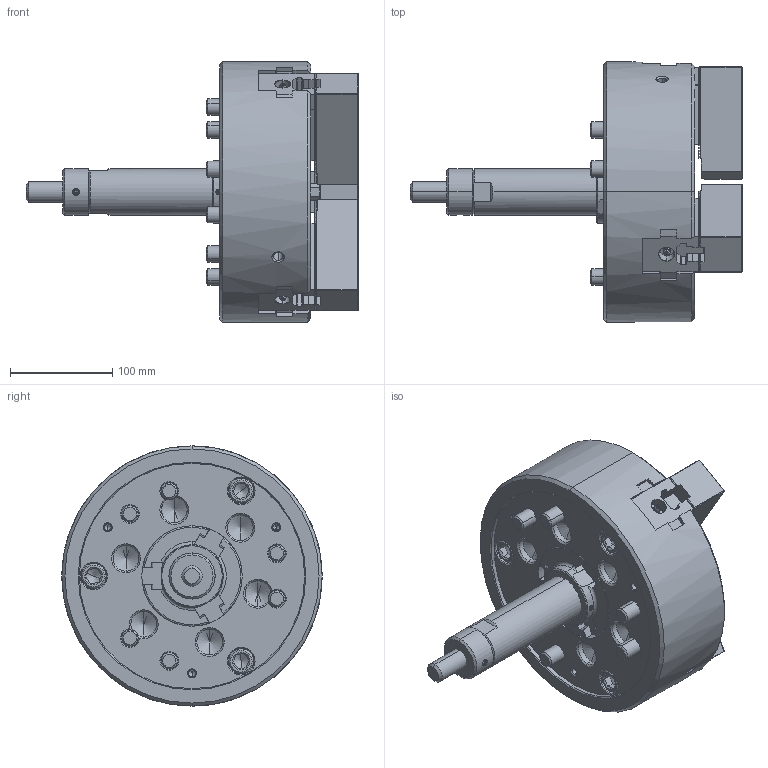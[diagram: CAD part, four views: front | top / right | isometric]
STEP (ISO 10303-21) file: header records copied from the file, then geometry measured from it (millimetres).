
FILE_DESCRIPTION (( 'STEP AP214' ), '1' );
FILE_NAME ('DT1_N-10_OUTSIDE_VIEW_OC.STEP', '2026-03-16T00:27:14', ( '' ), ( '' ), 'SwSTEP 2.0', 'SolidWorks 2022', '' );
FILE_SCHEMA (( 'AUTOMOTIVE_DESIGN' ));
Length unit declared in the file: millimetre
Products named in the file (11): DT1_N-10_DN^DT1_N-10; Copy of 61P310584^DT1_N-10; DT1_N-10_DRAWSCREW^DT1_N-10; DT1_N-10_OUTSIDE_VIEW_OC; DT1_N-10_BASE^DT1_N-10; DT1_N-10_M12x35^DT1_N-10; DT1_N-10_SOFTJAW^DT1_N-10; DT1_N-10_M16x85^DT1_N-10; DT1_N-10_TNUT^DT1_N-10; DT1_N-10_COVER^DT1_N-10; DT1_N-10_M5x12^DT1_N-10
Assembly tree (26 placements, depth 2):
  DT1_N-10_OUTSIDE_VIEW_OC
    DT1_N-10_SOFTJAW^DT1_N-10  x3
    DT1_N-10_TNUT^DT1_N-10  x3
    DT1_N-10_COVER^DT1_N-10
    DT1_N-10_DRAWSCREW^DT1_N-10
    Copy of 61P310584^DT1_N-10
    DT1_N-10_DN^DT1_N-10
    DT1_N-10_BASE^DT1_N-10
    DT1_N-10_M5x12^DT1_N-10  x3
    DT1_N-10_M12x35^DT1_N-10  x6
    DT1_N-10_M16x85^DT1_N-10  x6
Bounding box: 324 x 254 x 254 mm (x, y, z)
Volume: 4817750.6 mm3; surface area: 509487.3 mm2
Topology: 26 solids, 26 shells, 4122 faces, 11615 edges, 7586 vertices
Faces by surface type: plane 2908, cylinder 619, cone 420, bspline 111, torus 58, sphere 6
Entity records: 104171 total; most frequent: CARTESIAN_POINT 28807, ORIENTED_EDGE 16854, DIRECTION 13739, EDGE_CURVE 8427, LINE 6189, VECTOR 6189, VERTEX_POINT 5530, AXIS2_PLACEMENT_3D 3775
